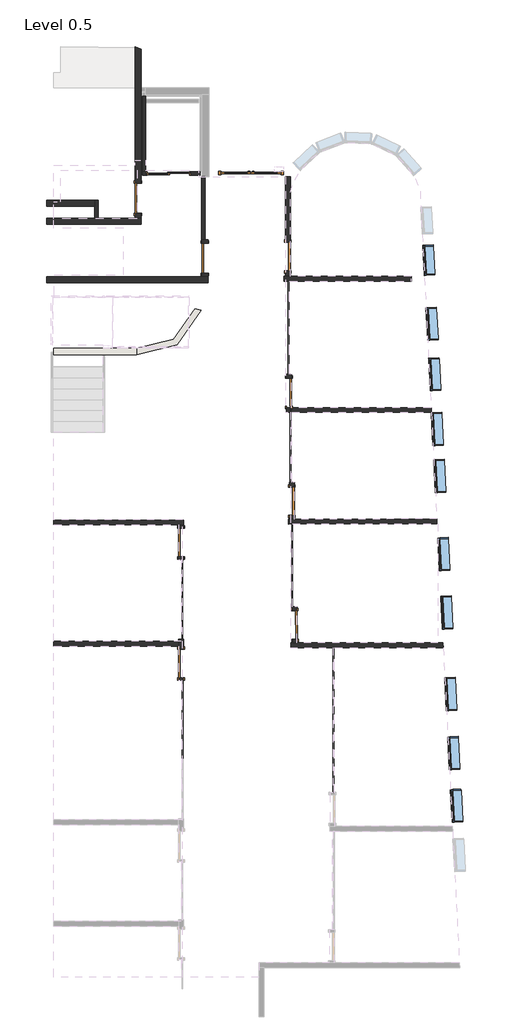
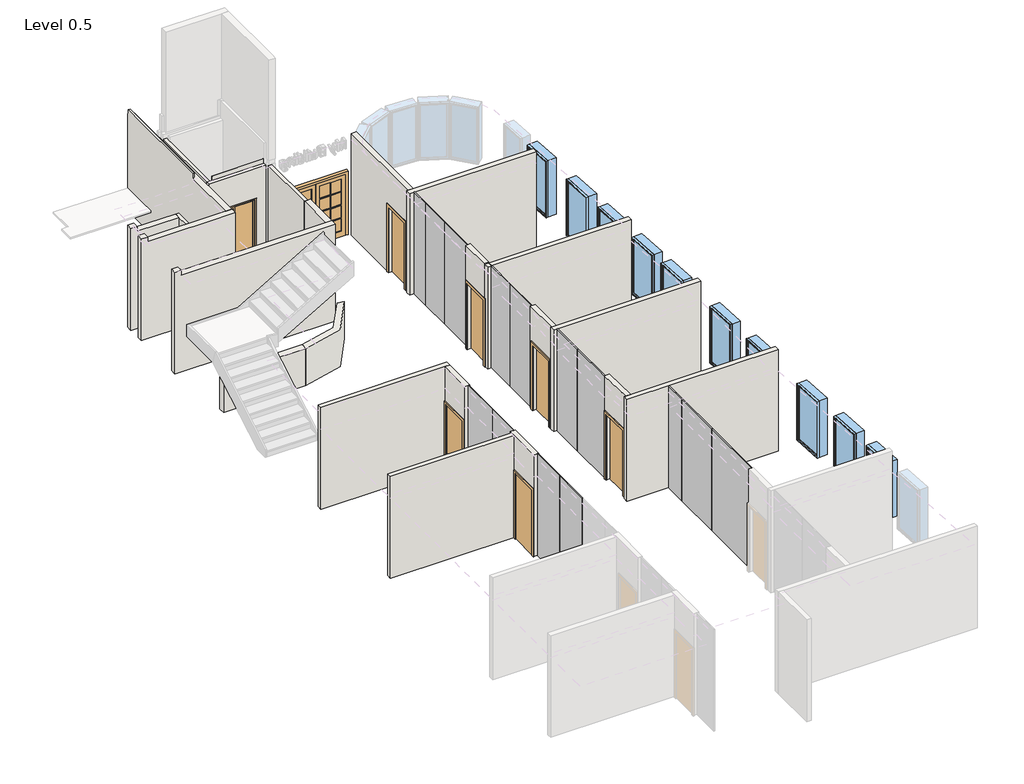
# One storey, part 2 of 3: 25 walls, 14 plates, 10 doors, 10 windows.
"""IFC4 building model written with IfcOpenShell, lengths in millimetres."""

from ifc_helpers import new_model, si_unit, point, frame, frame_2d, origin, place, context, project, spatial, polyline, circle_curve, trimmed, segment, composite_curve, outline, extrude, faceted_brep, transform, mapped, element, save
from components import doors_3_doors_1_fd330604, m_single_flush_0864_x_2134mm_191ab4f9, m_single_flush_0915_x_2134mm_5c733ab1, sliding_door_2_panel_aus_ee5771a8, system_panel_glazed_0a5cd876, system_panel_glazed_80297cd5, system_panel_glazed_2786322a, system_panel_glazed_2a0647fb, system_panel_glazed_84f5b725, system_panel_glazed_2528ea48, system_panel_glazed_407a75b0, system_panel_glazed_aaef7275, system_panel_glazed_4545aa77, system_panel_glazed_6fbf2da9, system_panel_glazed_ad9418b8, system_panel_glazed_ed1850e7, m_fixed_0915_x_1830mm_9602f45c, m_fixed_1000_x_1830mm_2_ae03b894

model = new_model("IFC4")

# Units and contexts
model_context = context("Model", 3, world=origin())
ifc_project = project(units=[si_unit("LENGTHUNIT", "METRE", prefix="MILLI")], contexts=[model_context])

# Site, building, storey
site = spatial("IfcSite", under=ifc_project)
building = spatial("IfcBuilding", under=site)
storey = spatial("IfcBuildingStorey", under=building, Name="Level 0.5", Elevation=1200.0)

# Doors
placement = place(None, origin())
doors_3_doors_1_shape = doors_3_doors_1_fd330604(model_context)
element("IfcDoor", 1, ObjectType="Doors 3 : Doors 1", at=placement, inside=storey, context=model_context, shape_type="MappedRepresentation", body=[
    mapped(doors_3_doors_1_shape, transform((241.9291899, -516.8251683, -3300.0), x_axis=(1.0, 0.0, 0.0), y_axis=(0.0, 1.0, 0.0), z_axis=(0.0, 0.0, 1.0))),
])
m_single_flush_0864_x_2134mm_shape = m_single_flush_0864_x_2134mm_191ab4f9(model_context)
element("IfcDoor", 2, ObjectType="M_Single-Flush : 0864 x 2134mm", at=placement, inside=storey, context=model_context, shape_type="MappedRepresentation", body=[
    mapped(m_single_flush_0864_x_2134mm_shape, transform((7075.5392732, 7549.7405588, 1200.0), x_axis=(0.0, -1.0, 0.0), y_axis=(1.0, 0.0, 0.0), z_axis=(0.0, 0.0, 1.0))),
])
element("IfcDoor", 3, ObjectType="M_Single-Flush : 0864 x 2134mm", at=placement, inside=storey, context=model_context, shape_type="MappedRepresentation", body=[
    mapped(m_single_flush_0864_x_2134mm_shape, transform((3824.6376114, -4835.7038617, 1200.0), x_axis=(0.0, 1.0, 0.0), y_axis=(-1.0, 0.0, 0.0), z_axis=(0.0, 0.0, 1.0))),
])
element("IfcDoor", 4, ObjectType="M_Single-Flush : 0864 x 2134mm", at=placement, inside=storey, context=model_context, shape_type="MappedRepresentation", body=[
    mapped(m_single_flush_0864_x_2134mm_shape, transform((3824.6376114, -1149.1675364, 1200.0), x_axis=(0.0, 1.0, 0.0), y_axis=(-1.0, 0.0, 0.0), z_axis=(0.0, 0.0, 1.0))),
])
element("IfcDoor", 5, ObjectType="M_Single-Flush : 0864 x 2134mm", at=placement, inside=storey, context=model_context, shape_type="MappedRepresentation", body=[
    mapped(m_single_flush_0864_x_2134mm_shape, transform((7197.8570765, 107.177138, 1200.0), x_axis=(0.0, -1.0, 0.0), y_axis=(1.0, 0.0, 0.0), z_axis=(0.0, 0.0, 1.0))),
])
element("IfcDoor", 6, ObjectType="M_Single-Flush : 0864 x 2134mm", at=placement, inside=storey, context=model_context, shape_type="MappedRepresentation", body=[
    mapped(m_single_flush_0864_x_2134mm_shape, transform((7288.4725755, -3657.4129777, 1200.0), x_axis=(0.01987244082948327, -0.9998025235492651, 0.0), y_axis=(0.9998025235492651, 0.01987244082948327, 0.0), z_axis=(0.0, 0.0, 1.0))),
])
element("IfcDoor", 7, ObjectType="M_Single-Flush : 0864 x 2134mm", at=placement, inside=storey, context=model_context, shape_type="MappedRepresentation", body=[
    mapped(m_single_flush_0864_x_2134mm_shape, transform((7110.1048556, 3423.3126445, 1200.0), x_axis=(0.0, -1.0, 0.0), y_axis=(1.0, 0.0, 0.0), z_axis=(0.0, 0.0, 1.0))),
])
m_single_flush_0915_x_2134mm_shape = m_single_flush_0915_x_2134mm_5c733ab1(model_context)
element("IfcDoor", 8, ObjectType="M_Single-Flush : 0915 x 2134mm", at=placement, inside=storey, context=model_context, shape_type="MappedRepresentation", body=[
    mapped(m_single_flush_0915_x_2134mm_shape, transform((2509.6668671, 9329.4436159, 1200.0), x_axis=(0.0, -1.0, 0.0), y_axis=(1.0, 0.0, 0.0), z_axis=(0.0, 0.0, 1.0))),
])
element("IfcDoor", 9, ObjectType="M_Single-Flush : 0915 x 2134mm", at=placement, inside=storey, context=model_context, shape_type="MappedRepresentation", body=[
    mapped(m_single_flush_0915_x_2134mm_shape, transform((4549.6770164, 7499.4456458, 1200.0), x_axis=(0.0, -1.0, 0.0), y_axis=(1.0, 0.0, 0.0), z_axis=(0.0, 0.0, 1.0))),
])
sliding_door_2_panel_aus_shape = sliding_door_2_panel_aus_ee5771a8(model_context)
element("IfcDoor", 10, ObjectType="Sliding Door - 2 Panel (AUS) : elavator door", at=placement, inside=storey, context=model_context, shape_type="MappedRepresentation", body=[
    mapped(sliding_door_2_panel_aus_shape, transform((3525.434997, 10081.9436225, 1200.0), x_axis=(-1.0, 0.0, 0.0), y_axis=(0.0, -1.0, 0.0), z_axis=(0.0, 0.0, 1.0))),
])

# Plates
system_panel_glazed_shape = system_panel_glazed_0a5cd876(model_context)
element("IfcPlate", 11, ObjectType="System Panel : Glazed", at=placement, inside=storey, context=model_context, shape_type="MappedRepresentation", body=[
    mapped(system_panel_glazed_shape, transform((8499.9667664, -5865.0867626, 1200.0), x_axis=(0.0, 1.0, 0.0), y_axis=(-1.0, 0.0, 0.0), z_axis=(0.0, 0.0, 1.0))),
])
system_panel_glazed_2_shape = system_panel_glazed_80297cd5(model_context)
element("IfcPlate", 12, ObjectType="System Panel : Glazed", at=placement, inside=storey, context=model_context, shape_type="MappedRepresentation", body=[
    mapped(system_panel_glazed_2_shape, transform((8499.9667664, -4710.1957662, 1200.0), x_axis=(0.0, 1.0, 0.0), y_axis=(-1.0, 0.0, 0.0), z_axis=(0.0, 0.0, 1.0))),
])
system_panel_glazed_3_shape = system_panel_glazed_2786322a(model_context)
element("IfcPlate", 13, ObjectType="System Panel : Glazed", at=placement, inside=storey, context=model_context, shape_type="MappedRepresentation", body=[
    mapped(system_panel_glazed_3_shape, transform((7249.3137467, -1140.3486306, 1200.0), x_axis=(0.0, 1.0, 0.0), y_axis=(-1.0, 0.0, 0.0), z_axis=(0.0, 0.0, 1.0))),
])
system_panel_glazed_4_shape = system_panel_glazed_2a0647fb(model_context)
element("IfcPlate", 14, ObjectType="System Panel : Glazed", at=placement, inside=storey, context=model_context, shape_type="MappedRepresentation", body=[
    mapped(system_panel_glazed_4_shape, transform((7197.8570765, 2304.8200321, 1200.0), x_axis=(0.0, 1.0, 0.0), y_axis=(-1.0, 0.0, 0.0), z_axis=(0.0, 0.0, 1.0))),
])
system_panel_glazed_5_shape = system_panel_glazed_84f5b725(model_context)
element("IfcPlate", 15, ObjectType="System Panel : Glazed", at=placement, inside=storey, context=model_context, shape_type="MappedRepresentation", body=[
    mapped(system_panel_glazed_5_shape, transform((7130.5392732, 4570.7828627, 1200.0), x_axis=(0.0, 1.0, 0.0), y_axis=(-1.0, 0.0, 0.0), z_axis=(0.0, 0.0, 1.0))),
])
element("IfcPlate", 16, ObjectType="System Panel : Glazed", at=placement, inside=storey, context=model_context, shape_type="MappedRepresentation", body=[
    mapped(system_panel_glazed_5_shape, transform((3834.6376114, -5937.1675364, 1200.0), x_axis=(0.0, -1.0, 0.0), y_axis=(1.0, 0.0, 0.0), z_axis=(0.0, 0.0, 1.0))),
])
element("IfcPlate", 17, ObjectType="System Panel : Glazed", at=placement, inside=storey, context=model_context, shape_type="MappedRepresentation", body=[
    mapped(system_panel_glazed_5_shape, transform((3834.6376114, -7137.1675364, 1200.0), x_axis=(0.0, -1.0, 0.0), y_axis=(1.0, 0.0, 0.0), z_axis=(0.0, 0.0, 1.0))),
])
system_panel_glazed_6_shape = system_panel_glazed_2528ea48(model_context)
element("IfcPlate", 18, ObjectType="System Panel : Glazed", at=placement, inside=storey, context=model_context, shape_type="MappedRepresentation", body=[
    mapped(system_panel_glazed_6_shape, transform((7130.5392732, 5670.7828627, 1200.0), x_axis=(0.0, 1.0, 0.0), y_axis=(-1.0, 0.0, 0.0), z_axis=(0.0, 0.0, 1.0))),
])
system_panel_glazed_7_shape = system_panel_glazed_407a75b0(model_context)
element("IfcPlate", 19, ObjectType="System Panel : Glazed", at=placement, inside=storey, context=model_context, shape_type="MappedRepresentation", body=[
    mapped(system_panel_glazed_7_shape, transform((7130.5392732, 6484.6167572, 1200.0), x_axis=(0.0, 1.0, 0.0), y_axis=(-1.0, 0.0, 0.0), z_axis=(0.0, 0.0, 1.0))),
])
system_panel_glazed_8_shape = system_panel_glazed_aaef7275(model_context)
element("IfcPlate", 20, ObjectType="System Panel : Glazed", at=placement, inside=storey, context=model_context, shape_type="MappedRepresentation", body=[
    mapped(system_panel_glazed_8_shape, transform((8499.9667664, -7715.0867626, 1200.0), x_axis=(0.0, 1.0, 0.0), y_axis=(-1.0, 0.0, 0.0), z_axis=(0.0, 0.0, 1.0))),
])
system_panel_glazed_9_shape = system_panel_glazed_4545aa77(model_context)
element("IfcPlate", 21, ObjectType="System Panel : Glazed", at=placement, inside=storey, context=model_context, shape_type="MappedRepresentation", body=[
    mapped(system_panel_glazed_9_shape, transform((7249.3137467, -2397.2928434, 1200.0), x_axis=(0.0, 1.0, 0.0), y_axis=(-1.0, 0.0, 0.0), z_axis=(0.0, 0.0, 1.0))),
])
system_panel_glazed_10_shape = system_panel_glazed_6fbf2da9(model_context)
element("IfcPlate", 22, ObjectType="System Panel : Glazed", at=placement, inside=storey, context=model_context, shape_type="MappedRepresentation", body=[
    mapped(system_panel_glazed_10_shape, transform((7197.8570765, 1241.8692038, 1200.0), x_axis=(0.0, 1.0, 0.0), y_axis=(-1.0, 0.0, 0.0), z_axis=(0.0, 0.0, 1.0))),
])
system_panel_glazed_11_shape = system_panel_glazed_ad9418b8(model_context)
element("IfcPlate", 23, ObjectType="System Panel : Glazed", at=placement, inside=storey, context=model_context, shape_type="MappedRepresentation", body=[
    mapped(system_panel_glazed_11_shape, transform((3824.6376114, -2327.1675364, 1200.0), x_axis=(0.0, -1.0, 0.0), y_axis=(1.0, 0.0, 0.0), z_axis=(0.0, 0.0, 1.0))),
])
system_panel_glazed_12_shape = system_panel_glazed_ed1850e7(model_context)
element("IfcPlate", 24, ObjectType="System Panel : Glazed", at=placement, inside=storey, context=model_context, shape_type="MappedRepresentation", body=[
    mapped(system_panel_glazed_12_shape, transform((3824.6376114, -3537.1675364, 1200.0), x_axis=(0.0, -1.0, 0.0), y_axis=(1.0, 0.0, 0.0), z_axis=(0.0, 0.0, 1.0))),
])

# Walls
element("IfcWall", 25, ObjectType="Generic - 18cm-gypsu-2boith 2", at=placement, inside=storey, context=model_context, shape_type="Brep", body=[
    faceted_brep([(4639.6770164, 6931.9670663, 1200.0), (4459.6770164, 6931.9670663, 1200.0), (-275.0290025, 6931.9670663, 1200.0), (-275.0290025, 6931.9670663, 4500.0), (-80.0000039, 6931.9670663, 4500.0), (-80.0000039, 6931.9670663, 4350.0), (4459.6770164, 6931.9670663, 4350.0), (4639.6770164, 6931.9670663, 4350.0), (-275.0290025, 6751.9670663, 1200.0), (4639.6770164, 6751.9670663, 1200.0), (4639.6770164, 6751.9670663, 4350.0), (-80.0000039, 6751.9670663, 4350.0), (-80.0000039, 6751.9670663, 4500.0), (-275.0290025, 6751.9670663, 4500.0)], [[[0, 1, 2, 3, 4, 5, 6, 7]], [[8, 9, 10, 11, 12, 13]], [[2, 1, 0, 9, 8]], [[3, 2, 8, 13]], [[3, 13, 12, 4]], [[9, 0, 7, 10]], [[5, 11, 10, 7, 6]], [[11, 5, 4, 12]]]),
])
element("IfcWall", 26, ObjectType="Generic - 18cm-gypsu-2boith 2", at=placement, inside=storey, context=model_context, shape_type="Brep", body=[
    faceted_brep([(4459.6770164, 7041.9456458, 1200.0), (4459.6770164, 6931.9670663, 1200.0), (4459.6770164, 6931.9670663, 4350.0), (4459.6770164, 8066.9242252, 4350.0), (4459.6770164, 8066.9242252, 1200.0), (4459.6770164, 7956.9456458, 1200.0), (4459.6770164, 7956.9456458, 3334.0), (4459.6770164, 7041.9456458, 3334.0), (4639.6770164, 6931.9670663, 1200.0), (4639.6770164, 7041.9456458, 1200.0), (4639.6770164, 7041.9456458, 3334.0), (4639.6770164, 7956.9456458, 3334.0), (4639.6770164, 7956.9456458, 1200.0), (4639.6770164, 8066.9242252, 1200.0), (4639.6770164, 8066.9242252, 4350.0), (4639.6770164, 6931.9670663, 4350.0), (4554.958768, 8066.9242252, 1200.0), (4554.958768, 8066.9242252, 4350.0)], [[[0, 1, 2, 3, 4, 5, 6, 7]], [[8, 9, 10, 11, 12, 13, 14, 15]], [[8, 1, 0, 9]], [[4, 16, 13, 12, 5]], [[13, 16, 4, 3, 17, 14]], [[1, 8, 15, 2]], [[7, 10, 9, 0]], [[10, 7, 6, 11]], [[11, 6, 5, 12]], [[3, 2, 15, 14, 17]]]),
])
element("IfcWall", 27, ObjectType="Generic - 18cm-gypsu-2boith 2", at=placement, inside=storey, context=model_context, shape_type="Brep", body=[
    faceted_brep([(2419.6668671, 8871.9436159, 1200.0), (2419.6668671, 8711.9436159, 1200.0), (2419.6668671, 8711.9436159, 4350.0), (2419.6668671, 10328.8506586, 4350.0), (2419.6668671, 10481.5722364, 4350.0), (2419.6668671, 10481.5722364, 4500.0), (2419.6668671, 13901.5570443, 4500.0), (2419.6668671, 13901.5570443, 4350.0), (2419.6668671, 13932.8821941, 4350.0), (2419.6668671, 13932.8821941, 1200.0), (2419.6668671, 9786.9436159, 1200.0), (2419.6668671, 9786.9436159, 3334.0), (2419.6668671, 8871.9436159, 3334.0), (2599.6668671, 8711.9436159, 1200.0), (2599.6668671, 8871.9436159, 1200.0), (2599.6668671, 8871.9436159, 3334.0), (2599.6668671, 9786.9436159, 3334.0), (2599.6668671, 9786.9436159, 1200.0), (2599.6668671, 12581.9436225, 1200.0), (2599.6668671, 12681.9436225, 1200.0), (2599.6668671, 13862.1417247, 1200.0), (2599.6668671, 13862.1417247, 4350.0), (2599.6668671, 8711.9436159, 4350.0), (2476.8607589, 10481.5722364, 4500.0), (2476.8607589, 13901.5570443, 4500.0), (2476.8607589, 13901.5570443, 4350.0), (2476.8607589, 10481.5722364, 4350.0)], [[[0, 1, 2, 3, 4, 5, 6, 7, 8, 9, 10, 11, 12]], [[13, 14, 15, 16, 17, 18, 19, 20, 21, 22]], [[13, 1, 0, 14]], [[20, 19, 18, 17, 10, 9]], [[6, 5, 23, 24]], [[1, 13, 22, 2]], [[12, 15, 14, 0]], [[15, 12, 11, 16]], [[16, 11, 10, 17]], [[20, 9, 8, 21]], [[25, 26, 4, 3, 2, 22, 21, 8, 7]], [[24, 25, 7, 6]], [[4, 26, 23, 5]], [[26, 25, 24, 23]]]),
])
element("IfcWall", 28, ObjectType="Generic - 18cm-gypsu-2boith 2", at=placement, inside=storey, context=model_context, shape_type="Brep", body=[
    faceted_brep([(2599.6668671, 8711.9436159, 1200.0), (2419.6668671, 8711.9436159, 1200.0), (-275.0290025, 8711.9436159, 1200.0), (-275.0290025, 8711.9436159, 4500.0), (-80.0000039, 8711.9436159, 4500.0), (-80.0000039, 8711.9436159, 4350.0), (2419.6668671, 8711.9436159, 4350.0), (2599.6668671, 8711.9436159, 4350.0), (-275.0290025, 8531.9436159, 1200.0), (2599.6668671, 8531.9436159, 1200.0), (2599.6668671, 8531.9436159, 4350.0), (-80.0000039, 8531.9436159, 4350.0), (-80.0000039, 8531.9436159, 4500.0), (-275.0290025, 8531.9436159, 4500.0)], [[[0, 1, 2, 3, 4, 5, 6, 7]], [[8, 9, 10, 11, 12, 13]], [[2, 1, 0, 9, 8]], [[3, 2, 8, 13]], [[3, 13, 12, 4]], [[9, 0, 7, 10]], [[5, 11, 10, 7, 6]], [[11, 5, 4, 12]]]),
])
element("IfcWall", 29, ObjectType="Generic - 10cm-gypsu-2boith", at=placement, inside=storey, context=model_context, shape_type="Brep", body=[
    faceted_brep([(4454.958768, 9981.7405588, 1200.0), (4454.958768, 8066.9242252, 1200.0), (4454.958768, 8066.9242252, 4350.0), (4454.958768, 9981.7405588, 4350.0), (4554.958768, 8066.9242252, 1200.0), (4554.958768, 9981.7405588, 1200.0), (4554.958768, 9981.7405588, 4350.0), (4554.958768, 8066.9242252, 4350.0), (4470.0008952, 9981.7405588, 1200.0), (4459.6770164, 8066.9242252, 1200.0), (4459.6770164, 8066.9242252, 4350.0), (4470.0008952, 9981.7405588, 4350.0)], [[[0, 1, 2, 3]], [[4, 5, 6, 7]], [[1, 0, 8, 5, 4, 9]], [[1, 9, 4, 7, 10, 2]], [[5, 8, 0, 3, 11, 6]], [[3, 2, 10, 7, 6, 11]]]),
])
element("IfcWall", 30, ObjectType="Generic - 10cm-gypsu-2boith", at=placement, inside=storey, context=model_context, shape_type="Brep", body=[
    faceted_brep([(1198.6625691, 9269.4957276, 1200.0), (1198.6625691, 9089.4957276, 1200.0), (1198.6625691, 8731.9436159, 1200.0), (1198.6625691, 8731.9436159, 4350.0), (1198.6625691, 9089.4957276, 4350.0), (1198.6625691, 9269.4957276, 4350.0), (1298.6625691, 8731.9436159, 1200.0), (1298.6625691, 9269.4957276, 1200.0), (1298.6625691, 9269.4957276, 4350.0), (1298.6625691, 8731.9436159, 4350.0)], [[[0, 1, 2, 3, 4, 5]], [[6, 7, 8, 9]], [[2, 1, 0, 7, 6]], [[2, 6, 9, 3]], [[7, 0, 5, 8]], [[5, 4, 3, 9, 8]]]),
])
element("IfcWall", 31, ObjectType="Generic - 18cm-gypsu-2boith 2", at=placement, inside=storey, context=model_context, shape_type="SweptSolid", body=[
    extrude(outline(polyline([(1200.0, -275.0290025), (1200.0, 1198.6625691), (4350.0, 1198.6625691), (4350.0, -80.0000039), (4500.0, -80.0000039), (4500.0, -275.0290025), (1200.0, -275.0290025)])), frame((0.0, 9089.4957276, 0.0), z_axis=(0.0, 1.0, 0.0), x_axis=(0.0, 0.0, 1.0)), (0.0, 0.0, 1.0), 180.0),
])
element("IfcWall", 32, ObjectType="Generic - 10cm-gypsu-2boith", at=placement, inside=storey, context=model_context, shape_type="Brep", body=[
    faceted_brep([(4129.6769958, 10031.9436225, 1200.0), (4399.6302337, 10031.9436225, 1200.0), (4399.6302337, 10031.9436225, 4350.0), (2649.6769958, 10031.9436225, 4350.0), (2649.6769958, 10031.9436225, 1200.0), (2749.6769958, 10031.9436225, 1200.0), (2749.6769958, 10031.9436225, 3383.0), (4129.6769958, 10031.9436225, 3383.0), (4399.6302337, 10131.9436225, 4500.0), (4399.6302337, 10131.9436225, 1200.0), (4129.6769958, 10131.9436225, 1200.0), (4129.6769958, 10131.9436225, 3383.0), (2749.6769958, 10131.9436225, 3383.0), (2749.6769958, 10131.9436225, 1200.0), (2649.6769958, 10131.9436225, 1200.0), (2649.6769958, 10131.9436225, 4350.0), (2749.6769958, 10131.9436225, 4350.0), (2800.0008657, 10131.9436225, 4350.0), (2800.0008657, 10131.9436225, 4500.0), (4399.6302337, 10131.7405588, 1200.0), (2800.0008657, 10131.7405588, 4500.0), (4399.6302337, 10131.7405588, 4500.0), (4399.6302337, 10131.7405588, 4350.0), (2800.0008657, 10131.7405588, 4350.0)], [[[0, 1, 2, 3, 4, 5, 6, 7]], [[8, 9, 10, 11, 12, 13, 14, 15, 16, 17, 18]], [[4, 14, 13, 5]], [[9, 19, 1, 0, 10]], [[8, 18, 20, 21]], [[14, 4, 3, 15]], [[1, 19, 9, 8, 21, 22, 2]], [[22, 23, 17, 16, 15, 3, 2]], [[23, 20, 18, 17]], [[20, 23, 22, 21]], [[7, 11, 10, 0]], [[11, 7, 6, 12]], [[12, 6, 5, 13]]]),
])
element("IfcWall", 33, ObjectType="Generic - 10cm-gypsu-2boith", at=placement, inside=storey, context=model_context, shape_type="Brep", body=[
    faceted_brep([(2649.6769958, 12431.9436225, 1200.0), (2649.6769958, 10131.9436225, 1200.0), (2649.6769958, 10131.9436225, 4350.0), (2649.6769958, 12431.9436225, 4350.0), (2749.6769958, 10131.9436225, 1200.0), (2749.6769958, 12231.9436225, 1200.0), (2749.6769958, 12331.9436225, 1200.0), (2749.6769958, 12431.9436225, 1200.0), (2749.6769958, 12431.9436225, 4350.0), (2749.6769958, 10131.9436225, 4350.0)], [[[0, 1, 2, 3]], [[4, 5, 6, 7, 8, 9]], [[1, 0, 7, 6, 5, 4]], [[1, 4, 9, 2]], [[7, 0, 3, 8]], [[3, 2, 9, 8]]]),
])
element("IfcWall", 34, ObjectType="Generic - 15cm-gypsu-2boith", at=placement, inside=storey, context=model_context, shape_type="SweptSolid", body=[
    extrude(outline(polyline([(7165.5392732, 2957.3506855), (11440.2894881, 2957.3506855), (11447.9270018, 2807.3506855), (7165.5392732, 2807.3506855), (7165.5392732, 2957.3506855)])), frame((0.0, 0.0, 1200.0), z_axis=(0.0, 0.0, 1.0), x_axis=(1.0, 0.0, 0.0)), (0.0, 0.0, 1.0), 3300.0),
])
element("IfcWall", 35, ObjectType="Generic - 15cm-gypsu-2boith", at=placement, inside=storey, context=model_context, shape_type="Brep", body=[
    faceted_brep([(11612.8107888, -430.9502585, 1200.0), (7272.8570765, -443.3366135, 1200.0), (7122.8570765, -443.7647178, 1200.0), (7102.1267533, -443.8238828, 1200.0), (7102.1267533, -443.8238828, 4500.0), (7122.8570765, -443.7647178, 4500.0), (7272.8570765, -443.3366135, 4500.0), (11612.8107888, -430.9502585, 4500.0), (11620.447224, -580.9290748, 1200.0), (11620.447224, -580.9290748, 4500.0), (7102.5548559, -593.8232719, 4500.0), (7102.5548559, -593.8232719, 1200.0)], [[[0, 1, 2, 3, 4, 5, 6, 7]], [[8, 9, 10, 11]], [[3, 2, 1, 0, 8, 11]], [[4, 3, 11, 10]], [[7, 6, 5, 4, 10, 9]], [[0, 7, 9, 8]]]),
])
element("IfcWall", 36, ObjectType="Generic - 15cm-gypsu-2boith", at=placement, inside=storey, context=model_context, shape_type="Brep", body=[
    faceted_brep([(11804.9886858, -4205.3047697, 1200.0), (7374.3774869, -4205.3047697, 1200.0), (7224.3478595, -4205.3047697, 1200.0), (7177.3194387, -4205.3047697, 1200.0), (7177.3194387, -4205.3047697, 4500.0), (7224.3478595, -4205.3047697, 4500.0), (7374.3774869, -4205.3047697, 4500.0), (11804.9886858, -4205.3047697, 4500.0), (11812.6261996, -4355.3047697, 1200.0), (11812.6261996, -4355.3047697, 4500.0), (7177.3194387, -4355.3047697, 4500.0), (7177.3194387, -4355.3047697, 1200.0)], [[[0, 1, 2, 3, 4, 5, 6, 7]], [[8, 9, 10, 11]], [[3, 2, 1, 0, 8, 11]], [[4, 3, 11, 10]], [[7, 6, 5, 4, 10, 9]], [[0, 7, 9, 8]]]),
])
element("IfcWall", 37, ObjectType="Generic - 15cm-gypsu-2boith", at=placement, inside=storey, context=model_context, shape_type="Brep", body=[
    faceted_brep([(3899.6376114, -467.1675364, 1200.0), (-50.0000039, -467.1675364, 1200.0), (-50.0000039, -467.1675364, 4500.0), (3899.6376114, -467.1675364, 4500.0), (3899.6376114, -617.1675364, 1200.0), (3899.6376114, -617.1675364, 4500.0), (3749.6376114, -617.1675364, 4500.0), (-50.0000039, -617.1675364, 4500.0), (-50.0000039, -617.1675364, 1200.0), (3749.6376114, -617.1675364, 1200.0)], [[[0, 1, 2, 3]], [[4, 5, 6, 7, 8, 9]], [[1, 0, 4, 9, 8]], [[3, 2, 7, 6, 5]], [[2, 1, 8, 7]], [[0, 3, 5, 4]]]),
])
element("IfcWall", 38, ObjectType="Generic - 15cm-gypsu-2boith", at=placement, inside=storey, context=model_context, shape_type="SweptSolid", body=[
    extrude(outline(polyline([(-50.0000039, -4153.7038617), (3749.6376114, -4153.7038617), (3749.6376114, -4303.7038617), (-50.0000039, -4303.7038617), (-50.0000039, -4153.7038617)])), frame((0.0, 0.0, 1200.0), z_axis=(0.0, 0.0, 1.0), x_axis=(1.0, 0.0, 0.0)), (0.0, 0.0, 1.0), 3300.0),
])
element("IfcWall", 39, ObjectType="Generic - 15cm-granit&gypsum", at=placement, inside=storey, context=model_context, shape_type="SweptSolid", body=[
    extrude(outline(polyline([(-617.1675364, 1200.0), (-717.1675364, 1200.0), (-717.1675364, 3334.0), (-1581.1675364, 3334.0), (-1581.1675364, 1200.0), (-1677.1675364, 1200.0), (-1677.1675364, 4500.0), (-617.1675364, 4500.0), (-617.1675364, 1200.0)])), frame((3749.6376114, 0.0, 0.0), z_axis=(1.0, 0.0, 0.0), x_axis=(0.0, 1.0, 0.0)), (0.0, 0.0, 1.0), 150.0),
])
element("IfcWall", 40, ObjectType="Generic - 15cm-gypsu-2boith", at=placement, inside=storey, context=model_context, shape_type="Brep", body=[
    faceted_brep([(10837.7498255, 6956.2694615, 1200.0), (7150.5392732, 6948.450989, 1200.0), (7000.5392732, 6948.1329245, 1200.0), (6953.2178403, 6948.0325827, 1200.0), (6953.2178403, 6948.0325827, 4500.0), (7000.5392732, 6948.1329245, 4500.0), (7150.5392732, 6948.450989, 4500.0), (10837.7498255, 6956.2694615, 4500.0), (10838.0678893, 6806.2697987, 1200.0), (10838.0678893, 6806.2697987, 4500.0), (6953.5359041, 6798.0329199, 4500.0), (6953.5359041, 6798.0329199, 1200.0)], [[[0, 1, 2, 3, 4, 5, 6, 7]], [[8, 9, 10, 11]], [[3, 2, 1, 0, 8, 11]], [[4, 3, 11, 10]], [[7, 6, 5, 4, 10, 9]], [[0, 7, 9, 8]]]),
])
element("IfcWall", 41, ObjectType="Generic - 15cm-granit&gypsum", at=placement, inside=storey, context=model_context, shape_type="Brep", body=[
    faceted_brep([(7000.5392732, 7117.7405588, 3334.0), (7000.5392732, 7117.7405588, 1200.0), (7000.5392732, 6948.1329245, 1200.0), (7000.5392732, 6948.1329245, 4500.0), (7000.5392732, 9981.7405588, 4500.0), (7000.5392732, 9981.7405588, 1200.0), (7000.5392732, 7981.7405588, 1200.0), (7000.5392732, 7981.7405588, 3334.0), (7150.5392732, 6948.450989, 1200.0), (7150.5392732, 7117.7405588, 1200.0), (7150.5392732, 7117.7405588, 3334.0), (7150.5392732, 7981.7405588, 3334.0), (7150.5392732, 7981.7405588, 1200.0), (7150.5392732, 9981.7405588, 1200.0), (7150.5392732, 9981.7405588, 4500.0), (7150.5392732, 6948.450989, 4500.0)], [[[0, 1, 2, 3, 4, 5, 6, 7]], [[8, 9, 10, 11, 12, 13, 14, 15]], [[6, 5, 13, 12]], [[2, 1, 9, 8]], [[4, 3, 15, 14]], [[5, 4, 14, 13]], [[3, 2, 8, 15]], [[10, 9, 1, 0]], [[11, 10, 0, 7]], [[12, 11, 7, 6]]]),
])
element("IfcWall", 42, ObjectType="Generic - 15cm-gypsu-2boith", at=placement, inside=storey, context=model_context, shape_type="Brep", body=[
    faceted_brep([(7122.8570765, -324.822862, 3334.0), (7122.8570765, -324.822862, 1200.0), (7122.8570765, -443.7647178, 1200.0), (7122.8570765, -443.7647178, 4500.0), (7122.8570765, 681.4490289, 4500.0), (7122.8570765, 681.4490289, 1200.0), (7122.8570765, 539.177138, 1200.0), (7122.8570765, 539.177138, 3334.0), (7272.8570765, -443.3366135, 1200.0), (7272.8570765, -324.822862, 1200.0), (7272.8570765, -324.822862, 3334.0), (7272.8570765, 539.177138, 3334.0), (7272.8570765, 539.177138, 1200.0), (7272.8570765, 681.4490289, 1200.0), (7272.8570765, 681.4490289, 4500.0), (7272.8570765, -443.3366135, 4500.0)], [[[0, 1, 2, 3, 4, 5, 6, 7]], [[8, 9, 10, 11, 12, 13, 14, 15]], [[6, 5, 13, 12]], [[2, 1, 9, 8]], [[4, 3, 15, 14]], [[5, 4, 14, 13]], [[12, 11, 7, 6]], [[11, 10, 0, 7]], [[10, 9, 1, 0]], [[3, 2, 8, 15]]]),
])
element("IfcWall", 43, ObjectType="Generic - 15cm-gypsu-2boith", at=placement, inside=storey, context=model_context, shape_type="SweptSolid", body=[
    extrude(outline(polyline([(7158.4858397, 2957.3506855), (7165.5392732, 2957.3506855), (7165.5392732, 2807.3506855), (7158.4858397, 2807.3506855), (7158.4858397, 2957.3506855)])), frame((0.0, 0.0, 1200.0), z_axis=(0.0, 0.0, 1.0), x_axis=(1.0, 0.0, 0.0)), (0.0, 0.0, 1.0), 3300.0),
])
element("IfcWall", 44, ObjectType="Generic - 15cm-gypsu-2boith", at=placement, inside=storey, context=model_context, shape_type="SweptSolid", body=[
    extrude(outline(polyline([(7035.1048556, 2957.3506855), (7158.4858397, 2957.3506855), (7158.4858397, 2807.3506855), (7035.1048556, 2807.3506855), (7035.1048556, 2957.3506855)])), frame((0.0, 0.0, 1200.0), z_axis=(0.0, 0.0, 1.0), x_axis=(1.0, 0.0, 0.0)), (0.0, 0.0, 1.0), 3300.0),
])
element("IfcWall", 45, ObjectType="Generic - 15cm-gypsu-2boith", at=placement, inside=storey, context=model_context, shape_type="Brep", body=[
    faceted_brep([(7222.0722806, -4090.818101, 3334.0), (7222.0722806, -4090.818101, 1200.0), (7224.3478595, -4205.3047697, 1200.0), (7224.3478595, -4205.3047697, 4500.0), (7202.4187312, -3102.028225, 4500.0), (7202.4187312, -3102.028225, 1200.0), (7204.9024917, -3226.9887206, 1200.0), (7204.9024917, -3226.9887206, 3334.0), (7374.3774869, -4205.3047697, 1200.0), (7372.0426592, -4087.8372348, 1200.0), (7372.0426592, -4087.8372348, 3334.0), (7354.8728703, -3224.0078545, 3334.0), (7354.8728703, -3224.0078545, 1200.0), (7352.3891097, -3099.0473589, 1200.0), (7352.3891097, -3099.0473589, 4500.0), (7374.3774869, -4205.3047697, 4500.0)], [[[0, 1, 2, 3, 4, 5, 6, 7]], [[8, 9, 10, 11, 12, 13, 14, 15]], [[6, 5, 13, 12]], [[2, 1, 9, 8]], [[4, 3, 15, 14]], [[5, 4, 14, 13]], [[3, 2, 8, 15]], [[12, 11, 7, 6]], [[11, 10, 0, 7]], [[10, 9, 1, 0]]]),
])
element("IfcWall", 46, ObjectType="Generic - 15cm-gypsu-2boith", at=placement, inside=storey, context=model_context, shape_type="SweptSolid", body=[
    extrude(outline(polyline([(3970.7828627, 4500.0), (3970.7828627, 1200.0), (3855.3126445, 1200.0), (3855.3126445, 3334.0), (2991.3126445, 3334.0), (2991.3126445, 4500.0), (3970.7828627, 4500.0)])), frame((7035.1048556, 0.0, 0.0), z_axis=(1.0, 0.0, 0.0), x_axis=(0.0, 1.0, 0.0)), (0.0, 0.0, 1.0), 150.0),
])
element("IfcWall", 47, ObjectType="Generic - 15cm-granit&gypsum", at=placement, inside=storey, context=model_context, shape_type="Brep", body=[
    faceted_brep([(3749.6376114, -5337.1675364, 1200.0), (3749.6376114, -5337.1675364, 4500.0), (3749.6376114, -4303.7038617, 4500.0), (3749.6376114, -4153.7038617, 4500.0), (3749.6376114, -4097.1675364, 4500.0), (3749.6376114, -4097.1675364, 1200.0), (3749.6376114, -4153.7038617, 1200.0), (3749.6376114, -4303.7038617, 1200.0), (3749.6376114, -4403.7038617, 1200.0), (3749.6376114, -4403.7038617, 3334.0), (3749.6376114, -5267.7038617, 3334.0), (3749.6376114, -5267.7038617, 1200.0), (3899.6376114, -5337.1675364, 4500.0), (3899.6376114, -5337.1675364, 1200.0), (3899.6376114, -5267.7038617, 1200.0), (3899.6376114, -5267.7038617, 3334.0), (3899.6376114, -4403.7038617, 3334.0), (3899.6376114, -4403.7038617, 1200.0), (3899.6376114, -4097.1675364, 1200.0), (3899.6376114, -4097.1675364, 4500.0)], [[[0, 1, 2, 3, 4, 5, 6, 7, 8, 9, 10, 11]], [[12, 13, 14, 15, 16, 17, 18, 19]], [[13, 0, 11, 14]], [[5, 18, 17, 8, 7, 6]], [[1, 0, 13, 12]], [[4, 3, 2, 1, 12, 19]], [[5, 4, 19, 18]], [[16, 9, 8, 17]], [[9, 16, 15, 10]], [[10, 15, 14, 11]]]),
])
element("IfcWall", 48, ObjectType="Generic - 200mm-Antick", at=placement, inside=storey, context=model_context, shape_type="SweptSolid", body=[
    extrude(outline(polyline([(2464.8684958, 4557.3506855), (-50.0000039, 4557.3506855), (-50.0000039, 4757.3506855), (2476.9370178, 4757.3506855), (2464.8684958, 4557.3506855)])), frame((0.0, 0.0, 1200.0), z_axis=(0.0, 0.0, 1.0), x_axis=(1.0, 0.0, 0.0)), (0.0, 0.0, 1.0), 1200.0),
])
element("IfcWall", 49, ObjectType="Generic - 200mm-Antick", at=placement, inside=storey, context=model_context, shape_type="SweptSolid", body=[
    extrude(outline(composite_curve([segment(polyline([(2464.8684958, 4557.3506855), (2476.9370178, 4757.3506855)]), True, "CONTINUOUS"), segment(trimmed(circle_curve(frame_2d((2677.1966129, 6361.9438364)), 1617.0414605), [point((2476.9370178, 4757.3506855))], [point((4246.0539433, 5970.1406183))], True, "CARTESIAN"), True, "CONTINUOUS"), segment(polyline([(4246.0539433, 5970.1406183), (4440.0944017, 5921.6813515)]), True, "CONTINUOUS"), segment(trimmed(circle_curve(frame_2d((2677.1966129, 6361.9438364)), 1817.0414605), [point((4440.0944017, 5921.6813515))], [point((2464.8684958, 4557.3506855))], False, "CARTESIAN"), True, "CONTINUOUS")], self_intersect=False)), frame((0.0, 0.0, 1200.0), z_axis=(0.0, 0.0, 1.0), x_axis=(1.0, 0.0, 0.0)), (0.0, 0.0, 1.0), 1200.0),
])

# Windows
m_fixed_0915_x_1830mm_shape = m_fixed_0915_x_1830mm_9602f45c(model_context)
element("IfcWindow", 50, ObjectType="M_Fixed : 0915 x 1830mm", at=placement, inside=storey, context=model_context, shape_type="MappedRepresentation", body=[
    mapped(m_fixed_0915_x_1830mm_shape, transform((11385.2300113, 7440.8172523, 1795.0), x_axis=(-0.05085088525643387, 0.9987062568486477, 0.0), y_axis=(-0.9987062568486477, -0.05085088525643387, 0.0), z_axis=(0.0, 0.0, 1.0))),
])
m_fixed_1000_x_1830mm_2_shape = m_fixed_1000_x_1830mm_2_ae03b894(model_context)
element("IfcWindow", 51, ObjectType="M_Fixed : 1000 x 1830mm 2", at=placement, inside=storey, context=model_context, shape_type="MappedRepresentation", body=[
    mapped(m_fixed_1000_x_1830mm_2_shape, transform((11646.9180896, 2301.2897922, 1795.0), x_axis=(-0.05085088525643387, 0.9987062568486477, 0.0), y_axis=(-0.9987062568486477, -0.05085088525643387, 0.0), z_axis=(0.0, 0.0, 1.0))),
])
element("IfcWindow", 52, ObjectType="M_Fixed : 1000 x 1830mm 2", at=placement, inside=storey, context=model_context, shape_type="MappedRepresentation", body=[
    mapped(m_fixed_1000_x_1830mm_2_shape, transform((11561.9971112, 3969.1292409, 1795.0), x_axis=(-0.05085088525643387, 0.9987062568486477, 0.0), y_axis=(-0.9987062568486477, -0.05085088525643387, 0.0), z_axis=(0.0, 0.0, 1.0))),
])
element("IfcWindow", 53, ObjectType="M_Fixed : 1000 x 1830mm 2", at=placement, inside=storey, context=model_context, shape_type="MappedRepresentation", body=[
    mapped(m_fixed_1000_x_1830mm_2_shape, transform((12057.5077679, -5762.6500713, 1795.0), x_axis=(-0.05085088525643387, 0.9987062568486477, 0.0), y_axis=(-0.9987062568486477, -0.05085088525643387, 0.0), z_axis=(0.0, 0.0, 1.0))),
])
element("IfcWindow", 54, ObjectType="M_Fixed : 1000 x 1830mm 2", at=placement, inside=storey, context=model_context, shape_type="MappedRepresentation", body=[
    mapped(m_fixed_1000_x_1830mm_2_shape, transform((11483.6867479, 5507.1368764, 1795.0), x_axis=(-0.05085088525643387, 0.9987062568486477, 0.0), y_axis=(-0.9987062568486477, -0.05085088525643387, 0.0), z_axis=(0.0, 0.0, 1.0))),
])
element("IfcWindow", 55, ObjectType="M_Fixed : 1000 x 1830mm 2", at=placement, inside=storey, context=model_context, shape_type="MappedRepresentation", body=[
    mapped(m_fixed_1000_x_1830mm_2_shape, transform((11719.6348555, 873.1398452, 1795.0), x_axis=(-0.05085088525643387, 0.9987062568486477, 0.0), y_axis=(-0.9987062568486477, -0.05085088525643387, 0.0), z_axis=(0.0, 0.0, 1.0))),
])
element("IfcWindow", 56, ObjectType="M_Fixed : 1000 x 1830mm 2", at=placement, inside=storey, context=model_context, shape_type="MappedRepresentation", body=[
    mapped(m_fixed_1000_x_1830mm_2_shape, transform((11840.6599624, -1503.7810461, 1795.0), x_axis=(-0.05085088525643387, 0.9987062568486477, 0.0), y_axis=(-0.9987062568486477, -0.05085088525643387, 0.0), z_axis=(0.0, 0.0, 1.0))),
])
element("IfcWindow", 57, ObjectType="M_Fixed : 1000 x 1830mm 2", at=placement, inside=storey, context=model_context, shape_type="MappedRepresentation", body=[
    mapped(m_fixed_1000_x_1830mm_2_shape, transform((11931.1745382, -3281.4781833, 1795.0), x_axis=(-0.05085088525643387, 0.9987062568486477, 0.0), y_axis=(-0.9987062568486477, -0.05085088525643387, 0.0), z_axis=(0.0, 0.0, 1.0))),
])
element("IfcWindow", 58, ObjectType="M_Fixed : 1000 x 1830mm 2", at=placement, inside=storey, context=model_context, shape_type="MappedRepresentation", body=[
    mapped(m_fixed_1000_x_1830mm_2_shape, transform((12149.0393614, -7560.3213336, 1795.0), x_axis=(-0.05085088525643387, 0.9987062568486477, 0.0), y_axis=(-0.9987062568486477, -0.05085088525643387, 0.0), z_axis=(0.0, 0.0, 1.0))),
])
element("IfcWindow", 59, ObjectType="M_Fixed : 1000 x 1830mm 2", at=placement, inside=storey, context=model_context, shape_type="MappedRepresentation", body=[
    mapped(m_fixed_1000_x_1830mm_2_shape, transform((12230.4007778, -9158.2513446, 1795.0), x_axis=(-0.05085088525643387, 0.9987062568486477, 0.0), y_axis=(-0.9987062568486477, -0.05085088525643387, 0.0), z_axis=(0.0, 0.0, 1.0))),
])

save(model, "model.ifc")
